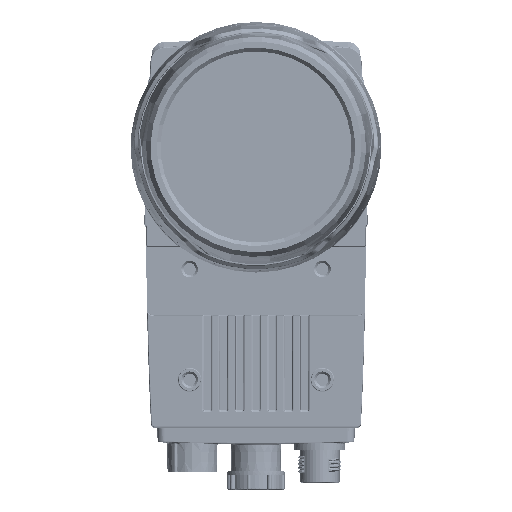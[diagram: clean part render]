
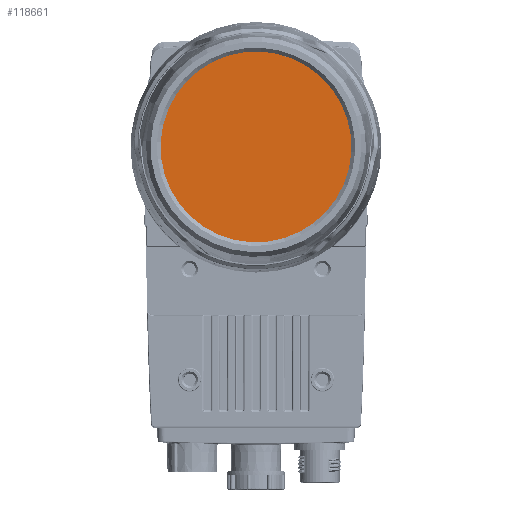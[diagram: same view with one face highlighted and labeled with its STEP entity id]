
A CAD part, top view. The second image highlights one B-rep face of the part: STEP entity #118661.
In plain terms, the highlighted planar face has unit normal (0, 0, 1).
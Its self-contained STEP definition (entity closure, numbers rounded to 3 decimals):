
#17572 = EDGE_CURVE ( 'NONE', #350568, #361754, #19400, .T. ) ;
#19400 = CIRCLE ( 'NONE', #21384, 28.625 ) ;
#21384 = AXIS2_PLACEMENT_3D ( 'NONE', #98607, #323694, #155187 ) ;
#30532 = DIRECTION ( 'NONE',  ( 0., 0., 1. ) ) ;
#65828 = EDGE_LOOP ( 'NONE', ( #164870, #297730 ) ) ;
#67832 = AXIS2_PLACEMENT_3D ( 'NONE', #296841, #101199, #325074 ) ;
#98607 = CARTESIAN_POINT ( 'NONE',  ( 0., 0., 84.85 ) ) ;
#99961 = PLANE ( 'NONE',  #67832 ) ;
#101199 = DIRECTION ( 'NONE',  ( 0., 0., 1. ) ) ;
#111470 = DIRECTION ( 'NONE',  ( 0.999, -0.034, 0. ) ) ;
#118661 = ADVANCED_FACE ( 'NONE', ( #169152 ), #99961, .T. ) ;
#148455 = CIRCLE ( 'NONE', #357842, 28.625 ) ;
#149795 = CARTESIAN_POINT ( 'NONE',  ( 28.609, -0.963, 84.85 ) ) ;
#155187 = DIRECTION ( 'NONE',  ( 0.999, -0.034, 0. ) ) ;
#164870 = ORIENTED_EDGE ( 'NONE', *, *, #17572, .T. ) ;
#169152 = FACE_OUTER_BOUND ( 'NONE', #65828, .T. ) ;
#280184 = CARTESIAN_POINT ( 'NONE',  ( 0., 0., 84.85 ) ) ;
#292110 = CARTESIAN_POINT ( 'NONE',  ( -28.609, 0.963, 84.85 ) ) ;
#296841 = CARTESIAN_POINT ( 'NONE',  ( 0., 0., 84.85 ) ) ;
#297730 = ORIENTED_EDGE ( 'NONE', *, *, #344412, .T. ) ;
#323694 = DIRECTION ( 'NONE',  ( 0., 0., 1. ) ) ;
#325074 = DIRECTION ( 'NONE',  ( 0.999, -0.034, 0. ) ) ;
#344412 = EDGE_CURVE ( 'NONE', #361754, #350568, #148455, .T. ) ;
#350568 = VERTEX_POINT ( 'NONE', #292110 ) ;
#357842 = AXIS2_PLACEMENT_3D ( 'NONE', #280184, #30532, #111470 ) ;
#361754 = VERTEX_POINT ( 'NONE', #149795 ) ;
